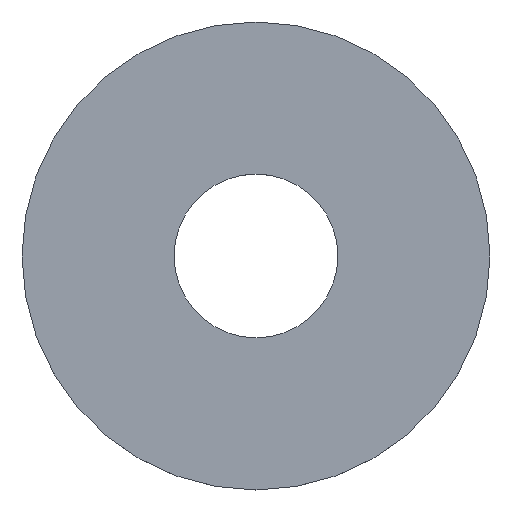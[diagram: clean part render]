
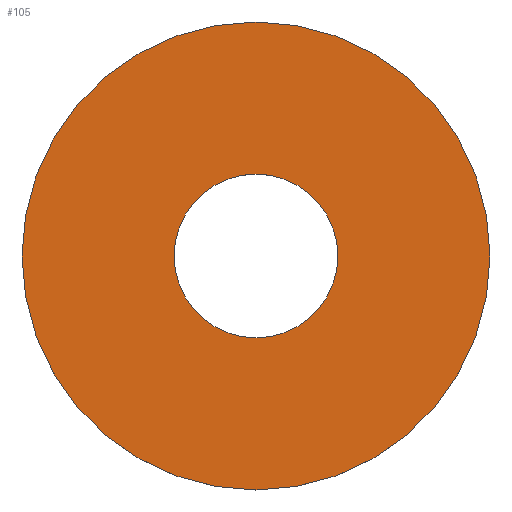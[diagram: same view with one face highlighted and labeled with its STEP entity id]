
A CAD part, top view. The second image highlights one B-rep face of the part: STEP entity #105.
In plain terms, the highlighted planar face has unit normal (0, 0, 1).
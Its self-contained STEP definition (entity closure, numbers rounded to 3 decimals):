
#21 = EDGE_CURVE('',#22,#22,#24,.T.);
#22 = VERTEX_POINT('',#23);
#23 = CARTESIAN_POINT('',(12.,0.,-0.8));
#24 = SURFACE_CURVE('',#25,(#30,#42),.PCURVE_S1.);
#25 = CIRCLE('',#26,12.);
#26 = AXIS2_PLACEMENT_3D('',#27,#28,#29);
#27 = CARTESIAN_POINT('',(0.,0.,-0.8));
#28 = DIRECTION('',(0.,0.,1.));
#29 = DIRECTION('',(1.,0.,-0.));
#30 = PCURVE('',#31,#36);
#31 = CYLINDRICAL_SURFACE('',#32,12.);
#32 = AXIS2_PLACEMENT_3D('',#33,#34,#35);
#33 = CARTESIAN_POINT('',(0.,0.,-1.4));
#34 = DIRECTION('',(0.,0.,1.));
#35 = DIRECTION('',(1.,0.,-0.));
#36 = DEFINITIONAL_REPRESENTATION('',(#37),#41);
#37 = LINE('',#38,#39);
#38 = CARTESIAN_POINT('',(0.,0.6));
#39 = VECTOR('',#40,1.);
#40 = DIRECTION('',(1.,0.));
#41 = ( GEOMETRIC_REPRESENTATION_CONTEXT(2) 
PARAMETRIC_REPRESENTATION_CONTEXT() REPRESENTATION_CONTEXT('2D SPACE',''
  ) );
#42 = PCURVE('',#43,#48);
#43 = PLANE('',#44);
#44 = AXIS2_PLACEMENT_3D('',#45,#46,#47);
#45 = CARTESIAN_POINT('',(0.,0.,-0.8));
#46 = DIRECTION('',(0.,0.,1.));
#47 = DIRECTION('',(1.,0.,-0.));
#48 = DEFINITIONAL_REPRESENTATION('',(#49),#53);
#49 = CIRCLE('',#50,12.);
#50 = AXIS2_PLACEMENT_2D('',#51,#52);
#51 = CARTESIAN_POINT('',(0.,0.));
#52 = DIRECTION('',(1.,0.));
#53 = ( GEOMETRIC_REPRESENTATION_CONTEXT(2) 
PARAMETRIC_REPRESENTATION_CONTEXT() REPRESENTATION_CONTEXT('2D SPACE',''
  ) );
#105 = ADVANCED_FACE('',(#106,#109),#43,.T.);
#106 = FACE_BOUND('',#107,.T.);
#107 = EDGE_LOOP('',(#108));
#108 = ORIENTED_EDGE('',*,*,#21,.T.);
#109 = FACE_BOUND('',#110,.T.);
#110 = EDGE_LOOP('',(#111));
#111 = ORIENTED_EDGE('',*,*,#112,.F.);
#112 = EDGE_CURVE('',#113,#113,#115,.T.);
#113 = VERTEX_POINT('',#114);
#114 = CARTESIAN_POINT('',(4.2,0.,-0.8));
#115 = SURFACE_CURVE('',#116,(#121,#128),.PCURVE_S1.);
#116 = CIRCLE('',#117,4.2);
#117 = AXIS2_PLACEMENT_3D('',#118,#119,#120);
#118 = CARTESIAN_POINT('',(0.,0.,-0.8));
#119 = DIRECTION('',(0.,0.,1.));
#120 = DIRECTION('',(1.,0.,-0.));
#121 = PCURVE('',#43,#122);
#122 = DEFINITIONAL_REPRESENTATION('',(#123),#127);
#123 = CIRCLE('',#124,4.2);
#124 = AXIS2_PLACEMENT_2D('',#125,#126);
#125 = CARTESIAN_POINT('',(0.,0.));
#126 = DIRECTION('',(1.,0.));
#127 = ( GEOMETRIC_REPRESENTATION_CONTEXT(2) 
PARAMETRIC_REPRESENTATION_CONTEXT() REPRESENTATION_CONTEXT('2D SPACE',''
  ) );
#128 = PCURVE('',#129,#134);
#129 = CYLINDRICAL_SURFACE('',#130,4.2);
#130 = AXIS2_PLACEMENT_3D('',#131,#132,#133);
#131 = CARTESIAN_POINT('',(0.,0.,-1.41));
#132 = DIRECTION('',(0.,0.,1.));
#133 = DIRECTION('',(1.,0.,-0.));
#134 = DEFINITIONAL_REPRESENTATION('',(#135),#139);
#135 = LINE('',#136,#137);
#136 = CARTESIAN_POINT('',(0.,0.61));
#137 = VECTOR('',#138,1.);
#138 = DIRECTION('',(1.,0.));
#139 = ( GEOMETRIC_REPRESENTATION_CONTEXT(2) 
PARAMETRIC_REPRESENTATION_CONTEXT() REPRESENTATION_CONTEXT('2D SPACE',''
  ) );
